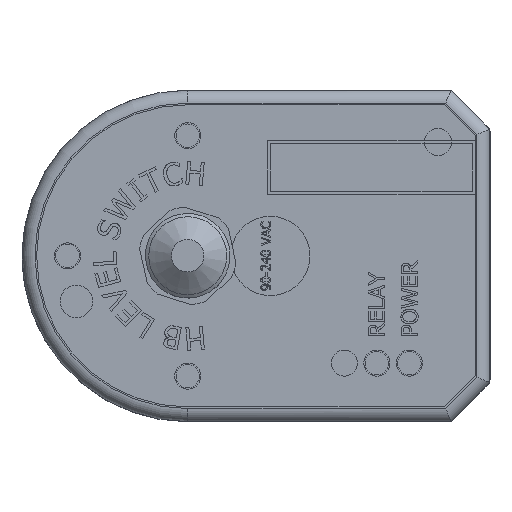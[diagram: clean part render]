
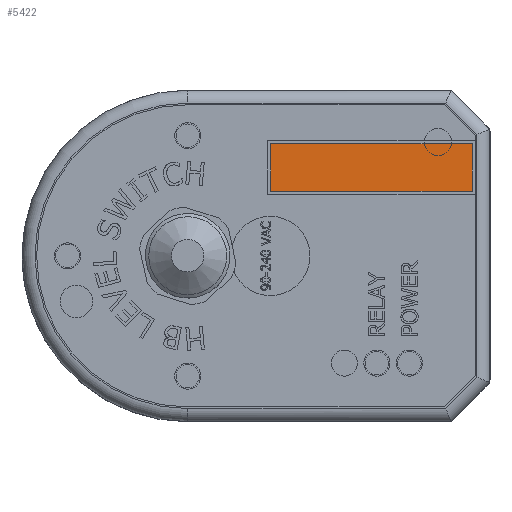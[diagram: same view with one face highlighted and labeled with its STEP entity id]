
A CAD part, top view. The second image highlights one B-rep face of the part: STEP entity #5422.
In plain terms, the highlighted planar face has unit normal (0, 0, 1).
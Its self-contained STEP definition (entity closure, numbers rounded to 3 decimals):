
#5296=CARTESIAN_POINT('',(43.75,17.25,25.064));
#5297=VERTEX_POINT('',#5296);
#5298=CARTESIAN_POINT('',(43.75,9.95,25.064));
#5299=VERTEX_POINT('',#5298);
#5300=CARTESIAN_POINT('',(43.75,17.25,25.064));
#5301=DIRECTION('',(0.0,-1.0,0.));
#5302=VECTOR('',#5301,7.3);
#5303=LINE('',#5300,#5302);
#5304=EDGE_CURVE('',#5297,#5299,#5303,.T.);
#5327=CARTESIAN_POINT('',(12.75,9.95,25.064));
#5328=VERTEX_POINT('',#5327);
#5329=CARTESIAN_POINT('',(43.75,9.95,25.064));
#5330=DIRECTION('',(-1.0,0.,0.));
#5331=VECTOR('',#5330,31.);
#5332=LINE('',#5329,#5331);
#5333=EDGE_CURVE('',#5299,#5328,#5332,.T.);
#5375=CARTESIAN_POINT('',(12.75,17.25,25.064));
#5376=VERTEX_POINT('',#5375);
#5377=CARTESIAN_POINT('',(12.75,17.25,25.064));
#5378=DIRECTION('',(1.0,0.,0.));
#5379=VECTOR('',#5378,31.);
#5380=LINE('',#5377,#5379);
#5381=EDGE_CURVE('',#5376,#5297,#5380,.T.);
#5399=CARTESIAN_POINT('',(12.75,9.95,25.064));
#5400=DIRECTION('',(0.0,1.0,0.));
#5401=VECTOR('',#5400,7.3);
#5402=LINE('',#5399,#5401);
#5403=EDGE_CURVE('',#5328,#5376,#5402,.T.);
#5411=CARTESIAN_POINT('',(28.25,13.6,25.064));
#5412=DIRECTION('',(0.,0.,1.0));
#5413=DIRECTION('',(0.,1.0,0.));
#5414=AXIS2_PLACEMENT_3D('',#5411,#5412,#5413);
#5415=PLANE('',#5414);
#5416=ORIENTED_EDGE('',*,*,#5304,.F.);
#5417=ORIENTED_EDGE('',*,*,#5381,.F.);
#5418=ORIENTED_EDGE('',*,*,#5403,.F.);
#5419=ORIENTED_EDGE('',*,*,#5333,.F.);
#5420=EDGE_LOOP('',(#5416,#5417,#5418,#5419));
#5421=FACE_OUTER_BOUND('',#5420,.T.);
#5422=ADVANCED_FACE('',(#5421),#5415,.T.);
